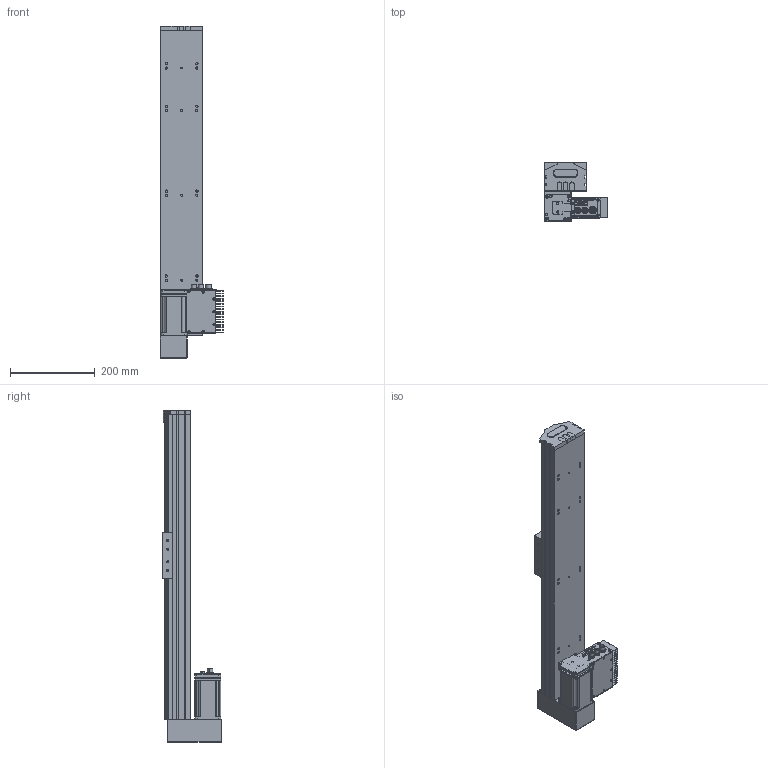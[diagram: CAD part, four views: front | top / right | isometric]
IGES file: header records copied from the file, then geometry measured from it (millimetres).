
Start section: SolidWorks IGES file using analytic representation for surfaces
Global section: file name: C:\Documents and Settings\1EDPI\Mes documents\yanize\S 10 TSH BM\S 10 TSH BM S500.IGS; native system: SolidWorks 2010; preprocessor: SolidWorks 2010; author: 1EDPI; date: 120907.133929; units: millimetre
Bounding box: 149.38 x 138.75 x 782 mm (x, y, z)
Surface area: 661500.6 mm2 (no closed solid volume)
Topology: 0 solids, 0 shells, 1980 faces, 26620 edges, 26588 vertices
Faces by surface type: revolution 1051, bspline 929
